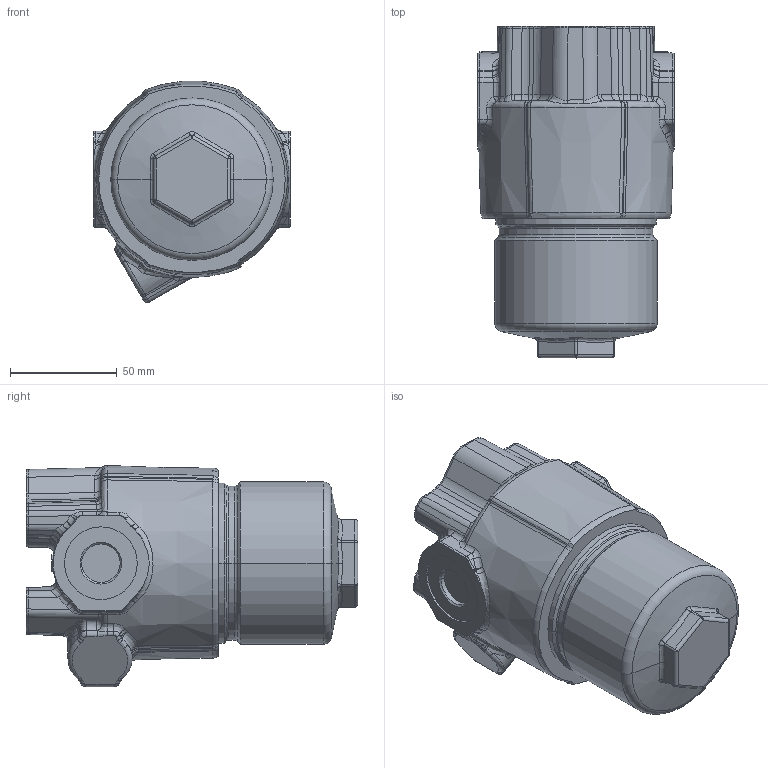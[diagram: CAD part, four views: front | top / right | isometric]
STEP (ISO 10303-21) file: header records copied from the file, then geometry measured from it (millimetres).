
FILE_DESCRIPTION((''),'2;1');
FILE_NAME('__MERGE_','2019-05-23T',('a.budig'),(''),'PRO/ENGINEER BY PARAMETRIC TECHNOLOGY CORPORATION, 2015110','PRO/ENGINEER BY PARAMETRIC TECHNOLOGY CORPORATION, 2015110','');
FILE_SCHEMA(('AUTOMOTIVE_DESIGN { 1 0 10303 214 1 1 1 1 }'));
Length unit declared in the file: millimetre
Products named in the file (1): __MERGE_
Bounding box: 92 x 155.25 x 103.51 mm (x, y, z)
Volume: 773542.3 mm3; surface area: 55888.1 mm2
Topology: 1 solids, 1 shells, 571 faces, 1296 edges, 730 vertices
Faces by surface type: bspline 215, cylinder 168, plane 90, torus 36, sphere 32, cone 30
Entity records: 28650 total; most frequent: CARTESIAN_POINT 13154, ORIENTED_EDGE 2576, DIRECTION 2066, EDGE_CURVE 1288, AXIS2_PLACEMENT_3D 850, VERTEX_POINT 730, EDGE_LOOP 582, FACE_OUTER_BOUND 571
